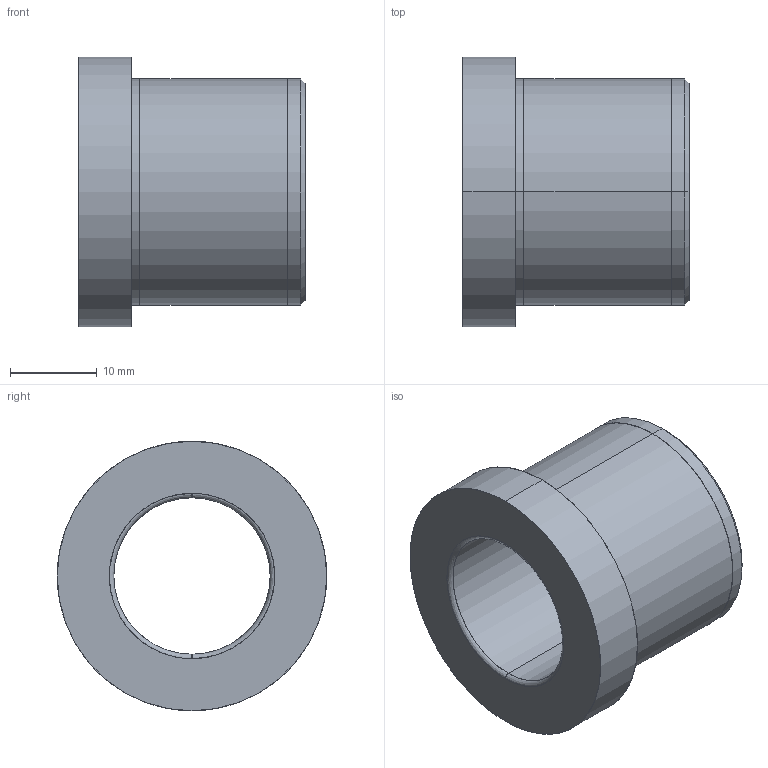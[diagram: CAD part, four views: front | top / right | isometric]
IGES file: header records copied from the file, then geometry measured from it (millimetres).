
Start section: SolidWorks IGES file using analytic representation for surfaces
Global section: file name: C:\Documents and Settings\kalite-mail\Desktop\IGS\D20\D20 - 18x26.IGS; native system: SolidWorks 2008; preprocessor: SolidWorks 2008; author: kalite-mail; date: 080617.113532; units: millimetre
Bounding box: 26 x 31 x 31 mm (x, y, z)
Surface area: 4643.2 mm2 (no closed solid volume)
Topology: 0 solids, 0 shells, 21 faces, 448 edges, 448 vertices
Faces by surface type: revolution 12, bspline 9
